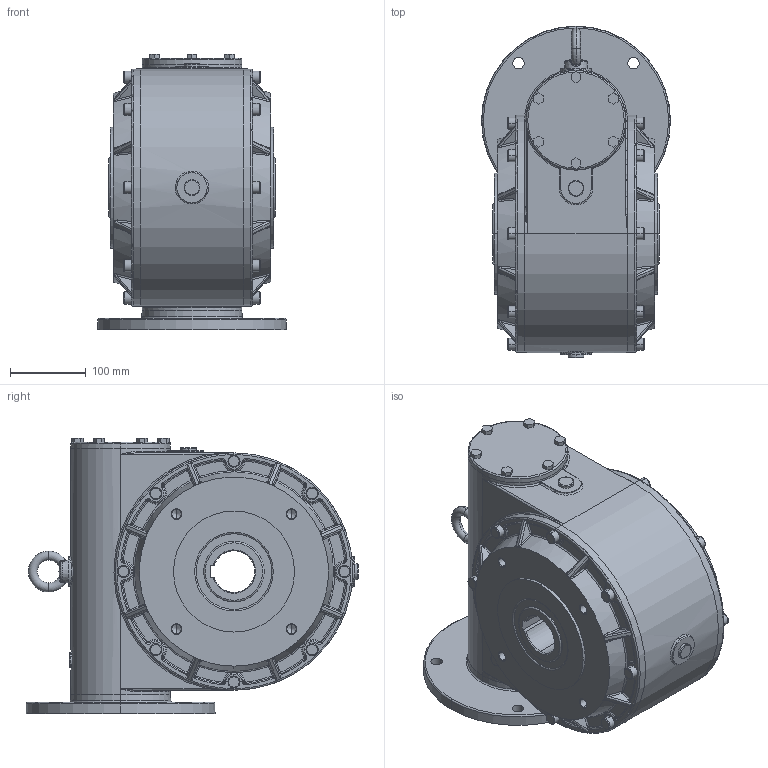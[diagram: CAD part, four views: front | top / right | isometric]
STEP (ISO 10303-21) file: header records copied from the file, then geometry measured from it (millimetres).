
FILE_DESCRIPTION (( 'STEP AP214' ), '1' );
FILE_NAME ('Sestava MRT150-FT.STEP', '2007-07-04T11:35:34', ( '' ), ( '' ), 'SwSTEP 2.0', 'SolidWorks 2004146', '' );
FILE_SCHEMA (( 'AUTOMOTIVE_DESIGN' ));
Length unit declared in the file: millimetre
Products named in the file (3): Pøíruba 150FT_Výchozí; Skrin MRT150_Mrt150-215-AP100; Sestava MRT150-FT
Assembly tree (3 placements, depth 2):
  Sestava MRT150-FT
    Skrin MRT150_Mrt150-215-AP100
    Pøíruba 150FT_Výchozí  x2
Bounding box: 250 x 439 x 364.3 mm (x, y, z)
Volume: 19103666.3 mm3; surface area: 920952.9 mm2
Topology: 3 solids, 3 shells, 928 faces, 2219 edges, 1324 vertices
Faces by surface type: torus 325, plane 171, cylinder 147, bspline 116, cone 89, sphere 80
Entity records: 81584 total; most frequent: CARTESIAN_POINT 68204, DIRECTION 2921, ORIENTED_EDGE 2728, EDGE_CURVE 1364, AXIS2_PLACEMENT_3D 1299, VERTEX_POINT 819, CIRCLE 787, EDGE_LOOP 621
